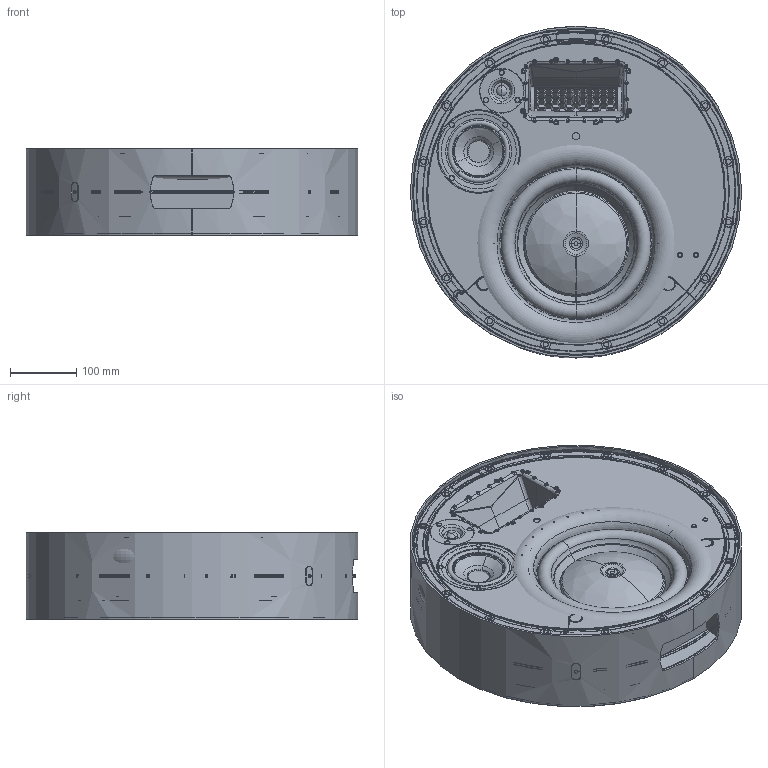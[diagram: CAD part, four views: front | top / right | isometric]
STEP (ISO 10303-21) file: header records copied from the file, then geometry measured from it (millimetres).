
FILE_DESCRIPTION((''),'2;1');
FILE_NAME('BEOSOUND_EDGE_SW','2018-05-24T',('VHK'),('Bang_&_Olufsen_A/S'),'CREO PARAMETRIC BY PTC INC, 2016260','CREO PARAMETRIC BY PTC INC, 2016260','');
FILE_SCHEMA(('CONFIG_CONTROL_DESIGN'));
Products named in the file (1): BEOSOUND_EDGE_SW
Bounding box: 500 x 500.87 x 130 mm (x, y, z)
Surface area: 2374934.6 mm2 (no closed solid volume)
Topology: 0 solids, 0 shells, 1447 faces, 7681 edges, 7553 vertices
Faces by surface type: bspline 1280, torus 130, sphere 37
Entity records: 215903 total; most frequent: CARTESIAN_POINT 132908, DIRECTION 9572, TRIMMED_CURVE 7751, DEFINITIONAL_REPRESENTATION 7397, PCURVE 7397, COMPOSITE_CURVE_SEGMENT 7397, VECTOR 6264, LINE 6264
